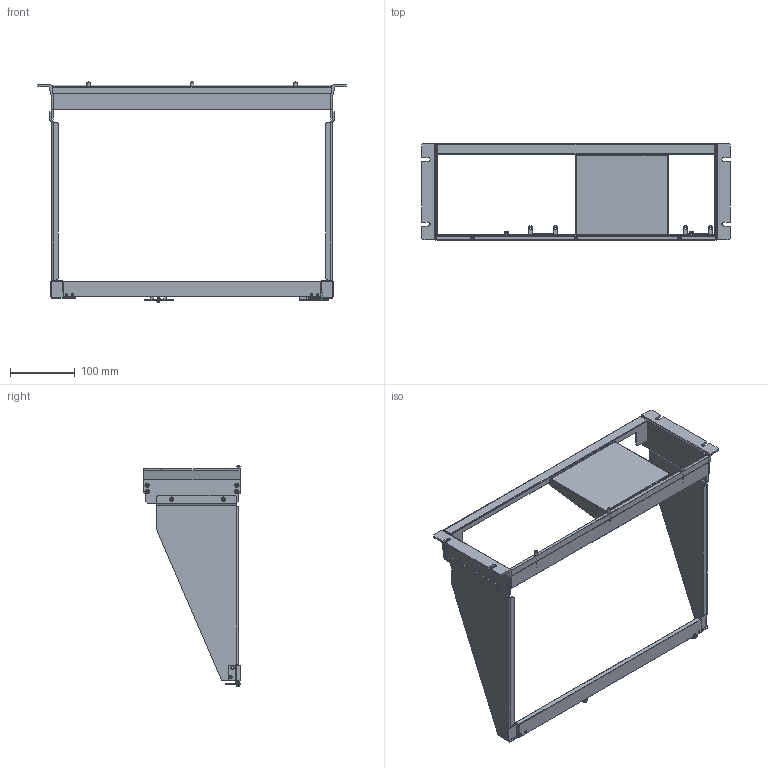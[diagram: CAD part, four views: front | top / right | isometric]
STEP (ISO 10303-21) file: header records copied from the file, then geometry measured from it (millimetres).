
FILE_DESCRIPTION((''),'2;1');
FILE_NAME('GRA-410-J_ASM','2020-03-12T09:09:05',('jeffery_kuo'),(''),'CREO PARAMETRIC BY PTC INC, 2019080','CREO PARAMETRIC BY PTC INC, 2019080','');
FILE_SCHEMA(('CONFIG_CONTROL_DESIGN'));
Length unit declared in the file: millimetre
Products named in the file (29): 62RA-410HP101_23_1; 62RA-410HP2A1_28_1; 62RA-410HP3A1_10_1; 62RA-410HPBA1_10; 62RA-410HP4A1_9_1; 62RA-410HP4A1-HP_8_1; 62RA-410HP4A1_ASM_5_1_ASM; 62RA-410HP5B1_13_1; 62RA-410HP5B1-HP_8_1; 62RA-410HP5B1_ASM_11_1_ASM; 62RA-410HPC01_5; 62RA-410HPC01_ASM_2_ASM; 59CA-04017NS1_3_1; 62RA-410HP801_ASM_3; 62RA-410HP701_21; 62RA-410HP701_ASM_3_ASM; 62RA-410HP601_ASM_3; 5320-00403001-SR-3S_ASM_1_1; PMS-W-3X6_9_1; FMS-3X8_8_1; FMS-3X5_8_1; IMS-3X6_9_1; 62RA-410HP9A1_ASM_3_1; JIS-RACK-3U_ASM_ASM_32_ASM; 62RA-410HP9A1_6; 62RA-410HP9A1_ASM_3_ASM; 62RA-410HPD01_9; JIS-PSW-RACK-3U_ASM_ASM_54_ASM; GRA-410-J_ASM
Assembly tree (51 placements, depth 5):
  GRA-410-J_ASM
    JIS-PSW-RACK-3U_ASM_ASM_54_ASM
      JIS-RACK-3U_ASM_ASM_32_ASM
        62RA-410HP101_23_1
        62RA-410HP2A1_28_1
        62RA-410HP3A1_10_1
        62RA-410HPBA1_10  x2
        62RA-410HP4A1_ASM_5_1_ASM
          62RA-410HP4A1_9_1
          62RA-410HP4A1-HP_8_1
        62RA-410HP5B1_ASM_11_1_ASM
          62RA-410HP5B1_13_1
          62RA-410HP5B1-HP_8_1
        62RA-410HPC01_ASM_2_ASM
          62RA-410HPC01_5
        59CA-04017NS1_3_1  x3
        62RA-410HP801_ASM_3
        62RA-410HP701_ASM_3_ASM
          62RA-410HP701_21
        62RA-410HP601_ASM_3
        5320-00403001-SR-3S_ASM_1_1  x4
        PMS-W-3X6_9_1  x4
        FMS-3X8_8_1  x8
        FMS-3X5_8_1  x4
        IMS-3X6_9_1  x4
        62RA-410HP9A1_ASM_3_1
      62RA-410HP9A1_ASM_3_ASM  x2
        62RA-410HP9A1_6
      62RA-410HPD01_9
Bounding box: 477.6 x 149 x 340.94 mm (x, y, z)
Volume: 396653.8 mm3; surface area: 328180.4 mm2
Topology: 37 solids, 37 shells, 1550 faces, 4027 edges, 2551 vertices
Faces by surface type: plane 806, cylinder 530, cone 162, bspline 24, sphere 22, torus 6
Entity records: 30935 total; most frequent: CARTESIAN_POINT 6787, DIRECTION 5253, ORIENTED_EDGE 4756, EDGE_CURVE 2378, AXIS2_PLACEMENT_3D 1890, VERTEX_POINT 1493, VECTOR 1473, LINE 1473
